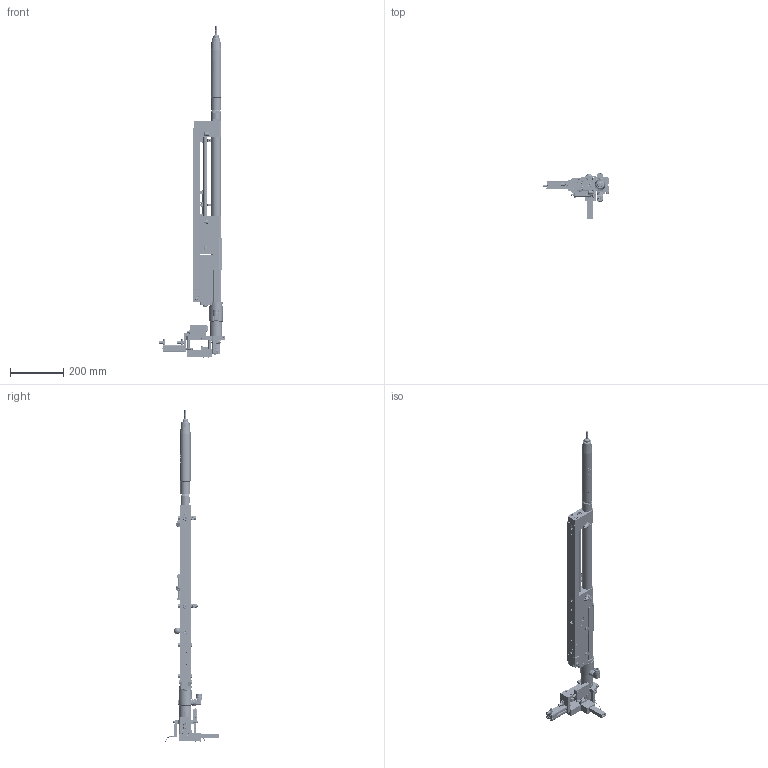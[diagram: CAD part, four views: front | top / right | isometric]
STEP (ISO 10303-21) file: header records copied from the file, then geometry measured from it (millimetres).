
FILE_DESCRIPTION(/* description */ ('© Copyright 2019 – Urheberrechtshinweis Diese CAD-Daten sind urheberrechtlich geschützt. Das Urheberrecht liegt, soweit nicht ausdrücklich anders gekennzeichnet, bei Stöger Automation GmbH. Bitte fragen Sie uns, falls Sie die CAD-Daten vervielfältigen oder','CAx-IF Rec.Pracs.---Representation and Presentation of Product Manufacturing Information (PMI)---4.0---2014-10-13'),/* implementation_level */ '2;1');
FILE_NAME(/* name */ 'H:\00_0 Arbeiten für Marketing\581290\3D_Step_file_SEM-V 32.stp',/* time_stamp */ '2020-07-17T10:34:05+02:00',/* author */ ('Stöger Automation GmbH'),/* organization */ ('Stöger Automation GmbH'),/* preprocessor_version */ 'ST-DEVELOPER v17',/* originating_system */ 'Autodesk Inventor 2018',/* authorisation */ '');
FILE_SCHEMA (('AP242_MANAGED_MODEL_BASED_3D_ENGINEERING_MIM_LF { 1 0 10303 442 1 1 4 }'));
Products named in the file (1): 581290
Bounding box: 246.5 x 199.7 x 1246.92 mm (x, y, z)
Volume: 2342370.6 mm3; surface area: 722041.8 mm2
Topology: 15 solids, 101 shells, 5026 faces, 13594 edges, 9065 vertices
Faces by surface type: plane 2681, cylinder 1077, bspline 707, cone 384, torus 152, sphere 25
Full cylindrical faces by diameter (mm): 1 x3, 1.2 x1, 1.5 x2, 1.8 x2, 2 x2, 2.2 x2, 2.3 x2, 2.38 x2, 2.4 x3, 2.42 x2, 2.5 x2, 3 x7, 3.02 x2, 3.242 x40, 3.6 x1, 3.8 x4, 4 x33, 4.1 x2, 4.134 x16, 4.2 x4, 4.3 x8, 4.4 x2, 4.5 x7, 4.917 x6, 5 x26, 5.2 x2, 5.3 x2, 5.4 x6, 5.5 x8, 5.6 x2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
Entity records: 322287 total; most frequent: CARTESIAN_POINT 195768, ORIENTED_EDGE 26990, DIRECTION 22910, EDGE_CURVE 13495, VERTEX_POINT 9065, AXIS2_PLACEMENT_3D 8104, LINE 6702, VECTOR 6702
